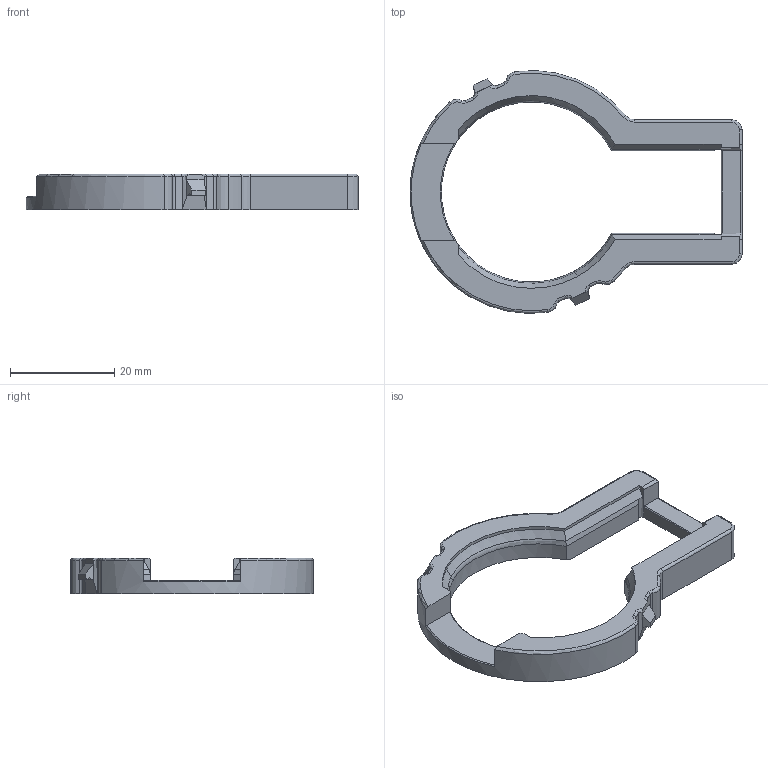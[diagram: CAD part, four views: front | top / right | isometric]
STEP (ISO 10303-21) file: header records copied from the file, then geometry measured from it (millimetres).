
FILE_DESCRIPTION(('HOOPS Exchange Step'),'2;1');
FILE_NAME('C:\Temp\3D data Important Information\HELLA_3D_data_RLS_Bracket_3M_adhesive_tape_Plastic_9HB-748-851-10.stp','2022-06-24T11:06:24+02:00',('gotsje1'),('Unknown organisation'),'HOOPS Exchange 2021.2','HOOPS Exchange','Unknown authorisation');
FILE_SCHEMA( ('AUTOMOTIVE_DESIGN { 1 0 10303 214 1 1 1 1 }') );
Length unit declared in the file: millimetre
Products named in the file (1): 10000566484_D10_001
Bounding box: 63.7 x 46.58 x 6.9 mm (x, y, z)
Volume: 5411.9 mm3; surface area: 3837.6 mm2
Topology: 1 solids, 1 shells, 118 faces, 313 edges, 197 vertices
Faces by surface type: cylinder 46, plane 41, torus 26, cone 5
Entity records: 4106 total; most frequent: CARTESIAN_POINT 1162, ORIENTED_EDGE 626, DIRECTION 611, EDGE_CURVE 313, AXIS2_PLACEMENT_3D 236, VERTEX_POINT 196, VECTOR 139, LINE 139
